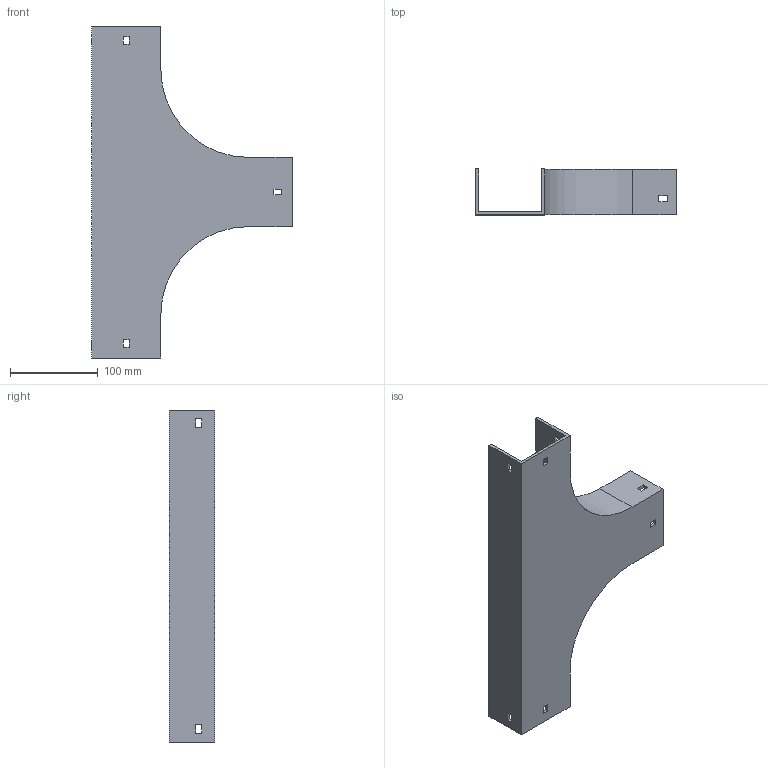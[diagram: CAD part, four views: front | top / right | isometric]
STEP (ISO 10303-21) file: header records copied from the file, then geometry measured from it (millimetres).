
FILE_DESCRIPTION (( 'STEP AP214' ), '1' );
FILE_NAME ('15B1B075.step', '2025-02-21T09:54:03', ( '' ), ( '' ), 'SwSTEP 2.0', 'SolidWorks 2023', '' );
FILE_SCHEMA (( 'AUTOMOTIVE_DESIGN' ));
Length unit declared in the file: millimetre
Products named in the file (1): 15B1B075
Bounding box: 229 x 52 x 379 mm (x, y, z)
Volume: 311753.4 mm3; surface area: 184158.4 mm2
Topology: 1 solids, 1 shells, 58 faces, 168 edges, 112 vertices
Faces by surface type: plane 54, cylinder 4
Entity records: 1939 total; most frequent: CARTESIAN_POINT 339, ORIENTED_EDGE 336, DIRECTION 294, EDGE_CURVE 168, VECTOR 160, LINE 160, VERTEX_POINT 112, EDGE_LOOP 76
